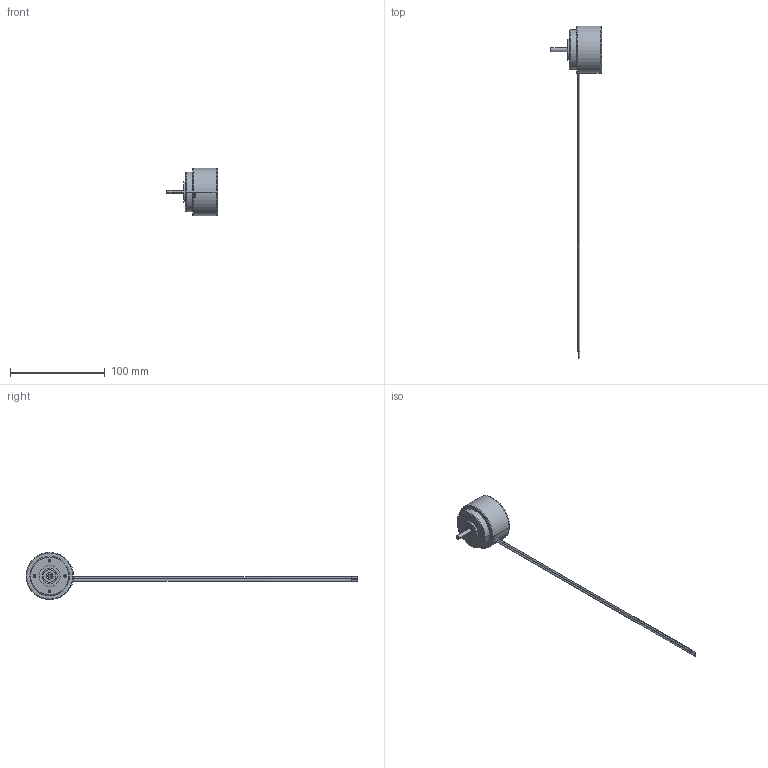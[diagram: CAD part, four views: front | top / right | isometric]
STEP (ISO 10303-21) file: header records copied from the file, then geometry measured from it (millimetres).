
FILE_DESCRIPTION((''),'2;1');
FILE_NAME('1951288','2016-10-10T',('mmagpetk'),(''),'CREO PARAMETRIC BY PTC INC, 2016050','CREO PARAMETRIC BY PTC INC, 2016050','');
FILE_SCHEMA(('CONFIG_CONTROL_DESIGN'));
Length unit declared in the file: millimetre
Products named in the file (1): 1951288
Bounding box: 53.8 x 350 x 50 mm (x, y, z)
Volume: 64378.8 mm3; surface area: 13473.8 mm2
Topology: 1 solids, 1 shells, 58 faces, 122 edges, 72 vertices
Faces by surface type: cylinder 30, plane 12, torus 8, cone 8
Entity records: 1658 total; most frequent: DIRECTION 298, CARTESIAN_POINT 292, ORIENTED_EDGE 228, AXIS2_PLACEMENT_3D 130, EDGE_CURVE 114, VERTEX_POINT 72, EDGE_LOOP 72, CIRCLE 72
